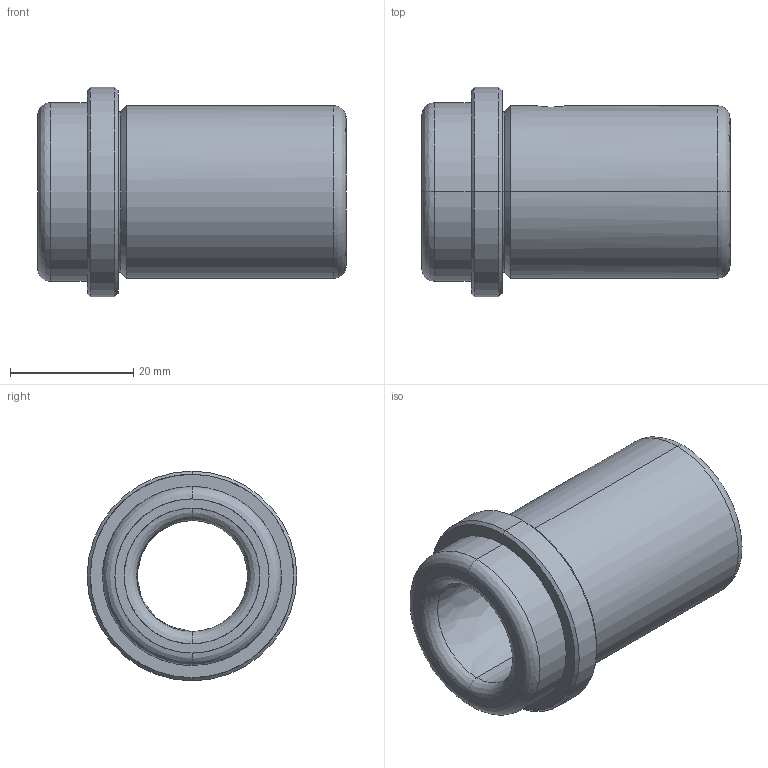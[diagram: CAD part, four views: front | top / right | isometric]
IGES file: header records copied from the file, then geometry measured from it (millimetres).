
Start section: START RECORD GO HERE.
Global section: file name: CF 632 18 x 50.igs; native system: DASSAULT SYSTEMES CATIA V5 R20 - www.3ds.com; preprocessor: CATIA Version 5 Release 20 ; author: Utente; organization: NB04-ASUS; date: 20201226.203958; units: millimetre
Bounding box: 50 x 34 x 34 mm (x, y, z)
Surface area: 8612.6 mm2 (no closed solid volume)
Topology: 0 solids, 0 shells, 33 faces, 210 edges, 210 vertices
Faces by surface type: revolution 28, plane 5
